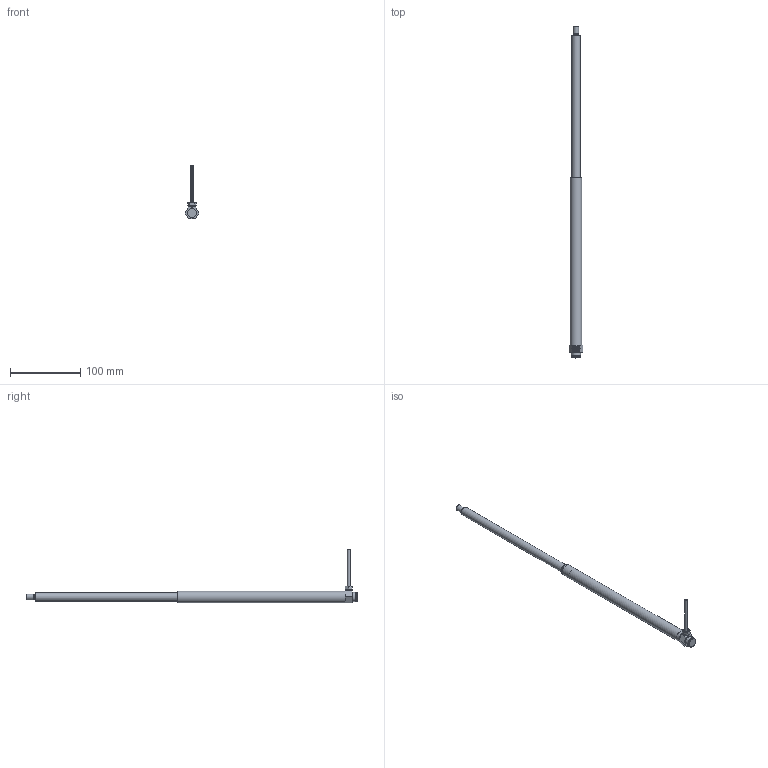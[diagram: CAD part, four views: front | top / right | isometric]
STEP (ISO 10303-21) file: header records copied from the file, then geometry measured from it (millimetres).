
FILE_DESCRIPTION(/* description */ ('Unknown'),/* implementation_level */ '2;1');
FILE_NAME(/* name */ '107.00142 Zylinder CH 1420_ausgefahren',/* time_stamp */ '2018-06-21T14:55:04+02:00',/* author */ ('Unknown'),/* organization */ ('Unknown'),/* preprocessor_version */ 'ST-DEVELOPER v16.7',/* originating_system */ 'DEX',/* authorisation */ $);
FILE_SCHEMA (('AUTOMOTIVE_DESIGN {1 0 10303 214 3 1 1}'));
Length unit declared in the file: millimetre
Products named in the file (9): 107.00142; 121.00002; 142.00021; 125.00021; 115.00001_oa_0; 125.00033; 120.00022; 122.00001; 113.00002_70mm
Assembly tree (8 placements, depth 2):
  107.00142
    121.00002
    142.00021
    125.00021
    115.00001_oa_0
    125.00033
    120.00022
    122.00001
    113.00002_70mm
Bounding box: 19.63 x 471 x 76.5 mm (x, y, z)
Volume: 42735.6 mm3; surface area: 37168.4 mm2
Topology: 7 solids, 7 shells, 97 faces, 197 edges, 125 vertices
Faces by surface type: plane 38, cylinder 29, cone 24, torus 5, sphere 1
Full cylindrical faces by diameter (mm): 2.2 x1, 2.78 x1, 3.5 x1, 4 x1, 4.1 x1, 4.2 x1, 6 x1, 6.917 x2, 7.763 x2, 8 x4, 8.1 x3, 9 x1, 12 x2, 12.5 x1, 13 x2, 13.9 x2, 14 x2, 16 x1
Entity records: 2964 total; most frequent: CARTESIAN_POINT 416, DIRECTION 406, ORIENTED_EDGE 258, AXIS2_PLACEMENT_3D 185, FACE_BOUND 174, EDGE_LOOP 172, EDGE_CURVE 129, VERTEX_POINT 113
